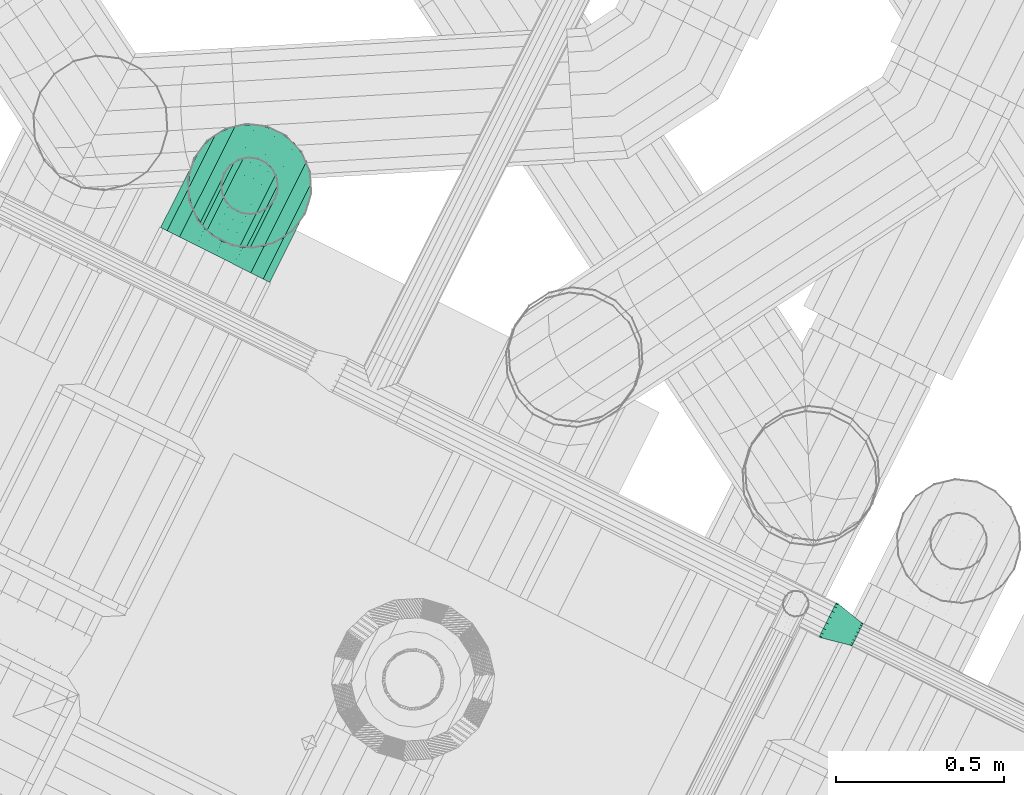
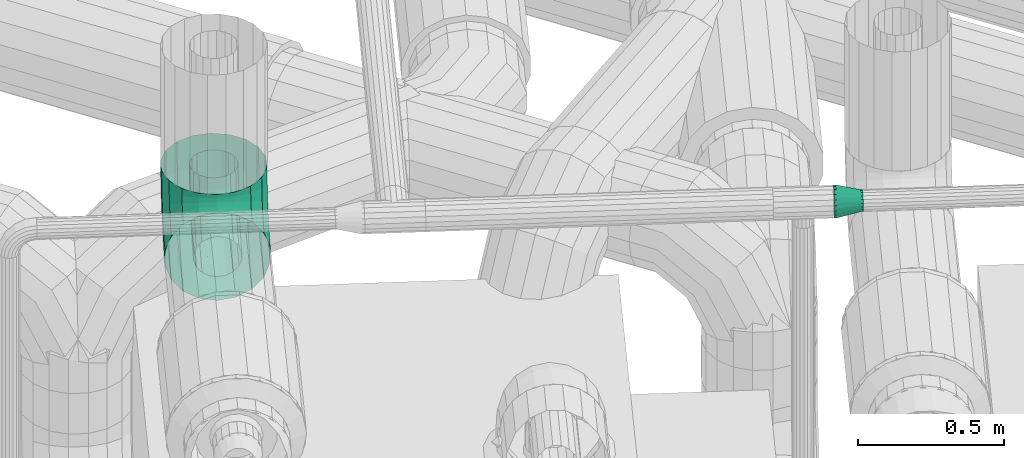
# One storey, part 134 of 206: 1 flow fitting, 1 flow segment.
"""IFC2X3 building model written with IfcOpenShell, lengths in metres."""

from ifc_helpers import new_model, si_unit, derived_unit, direction, frame, origin, place, context, subcontext, project, spatial, face_set, surface_model, source, transform, mapped, material, type_object, type_shapes, element, save


model = new_model("IFC2X3")

# Units and contexts
model_context = context("Model", 3, precision=5.2338327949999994e-05, world=origin(), true_north=direction((0.0, 1.0)))
body_context = subcontext(model_context, "Body", "Model", "MODEL_VIEW")
ifc_project = project(units=[si_unit("LENGTHUNIT", "METRE"), si_unit("AREAUNIT", "SQUARE_METRE"), si_unit("VOLUMEUNIT", "CUBIC_METRE"), si_unit("MASSUNIT", "GRAM", prefix="KILO"), si_unit("PLANEANGLEUNIT", "RADIAN"), derived_unit("THERMALTRANSMITTANCEUNIT", [(si_unit("MASSUNIT", "GRAM", prefix="KILO"), 1), (si_unit("THERMODYNAMICTEMPERATUREUNIT", "KELVIN"), -1), (si_unit("TIMEUNIT", "SECOND"), -3)])], contexts=[model_context])

# Site, building, storey
site_placement = place(None, frame((0.0, 0.0, 0.0), z_axis=(0.0, 0.0, 1.0), x_axis=(0.8939966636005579, -0.4480736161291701, 0.0)))
site = spatial("IfcSite", under=ifc_project, at=site_placement, Name="Default", CompositionType="ELEMENT")
building_placement = place(site_placement, origin())
building = spatial("IfcBuilding", under=site, at=building_placement, CompositionType="ELEMENT")
storey_placement = place(building_placement, origin())
storey = spatial("IfcBuildingStorey", under=building, at=storey_placement, Name="Erdgeschoss", CompositionType="ELEMENT", Elevation=0.0)

# Flow segment
ifc_material_1 = material(Name="IfcSurfaceStyle #1741")
distribution_element_type_1 = type_object("IfcDistributionElementType", Name="Rohrbogen 319046:Rohrbogen 319046", material=ifc_material_1)
shared_shape_1 = source(origin(), body_context, "Body", "SurfaceModel", [
    surface_model("IfcFaceBasedSurfaceModel", [(23.08485389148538, 8.230715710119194, 2.2698499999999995), (23.05607289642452, 8.230715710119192, 2.274924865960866), (23.05607289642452, 8.325916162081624, 2.290003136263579), (23.08485389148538, 8.327484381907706, 2.285176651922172), (23.05607289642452, 8.411797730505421, 2.3337619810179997), (23.08485389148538, 8.41478066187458, 2.3296563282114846), (23.05607289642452, 8.47995372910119, 2.4019179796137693), (23.08485389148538, 8.48405938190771, 2.3989350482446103), (23.056072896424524, 8.523712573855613, 2.4877995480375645), (23.084853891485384, 8.528539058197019, 2.4862313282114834), (23.056072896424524, 8.538790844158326, 2.5829999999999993), (23.084853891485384, 8.543865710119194, 2.5829999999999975), (23.030763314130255, 8.230715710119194, 2.2895373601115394), (23.030763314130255, 8.321400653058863, 2.303900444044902), (23.030763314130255, 8.403208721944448, 2.3455837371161), (23.030763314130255, 8.468131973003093, 2.410506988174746), (23.030763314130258, 8.509815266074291, 2.492315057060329), (23.030763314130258, 8.524178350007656, 2.5829999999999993), (23.011977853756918, 8.230715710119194, 2.3119249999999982), (23.011977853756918, 8.314482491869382, 2.32519235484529), (23.011977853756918, 8.390049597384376, 2.3636957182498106), (23.011977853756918, 8.450019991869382, 2.4236661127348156), (23.011977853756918, 8.488523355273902, 2.499233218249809), (23.011977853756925, 8.501790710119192, 2.583), (23.001982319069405, 8.230715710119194, 2.33938750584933), (23.001982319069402, 8.305996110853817, 2.351310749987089), (23.001982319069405, 8.373907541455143, 2.385913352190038), (23.001982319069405, 8.427802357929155, 2.43980816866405), (23.001982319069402, 8.462404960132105, 2.507719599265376), (23.001982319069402, 8.474328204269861, 2.583000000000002), (23.001982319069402, 8.230715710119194, 2.3686124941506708), (23.001982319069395, 8.296965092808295, 2.3791053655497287), (23.001982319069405, 8.356729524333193, 2.409556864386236), (23.001982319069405, 8.404158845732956, 2.4569861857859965), (23.001982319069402, 8.434610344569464, 2.5167506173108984), (23.00198231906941, 8.445103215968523, 2.5829999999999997), (23.011977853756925, 8.230715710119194, 2.3960749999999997), (23.011977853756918, 8.28847871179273, 2.4052237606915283), (23.011977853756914, 8.340587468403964, 2.43177449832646), (23.011977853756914, 8.38194121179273, 2.473128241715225), (23.011977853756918, 8.408491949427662, 2.525236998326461), (23.011977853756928, 8.417640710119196, 2.5829999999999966), (23.030763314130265, 8.230715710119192, 2.4184626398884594), (23.030763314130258, 8.28156055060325, 2.426515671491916), (23.030763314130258, 8.327428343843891, 2.449886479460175), (23.030763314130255, 8.363829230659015, 2.486287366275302), (23.030763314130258, 8.387200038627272, 2.5321551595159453), (23.030763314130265, 8.395253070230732, 2.5830000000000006), (23.05607289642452, 8.230715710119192, 2.4330751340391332), (23.05607289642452, 8.277045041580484, 2.4404129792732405), (23.05607289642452, 8.318839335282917, 2.461708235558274), (23.056072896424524, 8.352007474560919, 2.4948763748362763), (23.056072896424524, 8.373302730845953, 2.5366706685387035), (23.056072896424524, 8.380640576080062, 2.582999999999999), (23.084853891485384, 8.230715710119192, 2.438149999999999), (23.084853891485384, 8.275476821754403, 2.445239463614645), (23.084853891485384, 8.315856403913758, 2.4658138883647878), (23.084853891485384, 8.347901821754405, 2.497859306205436), (23.084853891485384, 8.368476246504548, 2.5382388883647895), (23.084853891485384, 8.375565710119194, 2.5830000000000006), (23.11363488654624, 8.230715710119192, 2.433075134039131), (23.113634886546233, 8.277045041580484, 2.440412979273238), (23.11363488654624, 8.318839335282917, 2.46170823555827), (23.11363488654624, 8.352007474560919, 2.4948763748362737), (23.11363488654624, 8.373302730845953, 2.5366706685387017), (23.11363488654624, 8.380640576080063, 2.5829999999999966), (23.1389444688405, 8.230715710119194, 2.418462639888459), (23.1389444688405, 8.28156055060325, 2.4265156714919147), (23.138944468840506, 8.327428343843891, 2.4498864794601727), (23.138944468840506, 8.363829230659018, 2.486287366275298), (23.138944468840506, 8.387200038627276, 2.532155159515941), (23.138944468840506, 8.395253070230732, 2.582999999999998), (23.15772992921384, 8.230715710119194, 2.3960749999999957), (23.15772992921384, 8.28847871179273, 2.4052237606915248), (23.15772992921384, 8.340587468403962, 2.431774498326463), (23.15772992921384, 8.38194121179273, 2.473128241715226), (23.15772992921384, 8.408491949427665, 2.525236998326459), (23.15772992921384, 8.417640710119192, 2.5829999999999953), (23.16772546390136, 8.230715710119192, 2.368612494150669), (23.16772546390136, 8.296965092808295, 2.379105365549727), (23.16772546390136, 8.356729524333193, 2.409556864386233), (23.16772546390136, 8.404158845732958, 2.4569861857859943), (23.16772546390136, 8.434610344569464, 2.516750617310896), (23.16772546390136, 8.445103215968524, 2.5829999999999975), (23.16772546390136, 8.230715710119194, 2.3393875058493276), (23.167725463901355, 8.305996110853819, 2.351310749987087), (23.167725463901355, 8.373907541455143, 2.3859133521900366), (23.16772546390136, 8.427802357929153, 2.4398081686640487), (23.16772546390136, 8.462404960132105, 2.5077195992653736), (23.16772546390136, 8.474328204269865, 2.5829999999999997), (23.157729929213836, 8.230715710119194, 2.311924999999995), (23.15772992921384, 8.314482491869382, 2.325192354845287), (23.157729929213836, 8.390049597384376, 2.36369571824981), (23.157729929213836, 8.450019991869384, 2.423666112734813), (23.15772992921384, 8.488523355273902, 2.4992332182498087), (23.15772992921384, 8.501790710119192, 2.5829999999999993), (23.1389444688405, 8.230715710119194, 2.289537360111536), (23.1389444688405, 8.321400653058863, 2.3039004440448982), (23.1389444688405, 8.403208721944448, 2.345583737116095), (23.1389444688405, 8.468131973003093, 2.4105069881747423), (23.1389444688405, 8.509815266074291, 2.492315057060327), (23.138944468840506, 8.524178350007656, 2.5829999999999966), (23.11363488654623, 8.230715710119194, 2.2749248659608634), (23.11363488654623, 8.325916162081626, 2.290003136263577), (23.113634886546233, 8.411797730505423, 2.3337619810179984), (23.113634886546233, 8.479953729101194, 2.4019179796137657), (23.11363488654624, 8.523712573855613, 2.4877995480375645), (23.11363488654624, 8.538790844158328, 2.5829999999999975), (23.084853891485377, 8.230715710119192, 2.16985), (23.021870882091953, 8.230715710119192, 2.1809556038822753), (23.021870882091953, 8.35495426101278, 2.200633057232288), (23.084853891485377, 8.358386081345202, 2.190071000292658), (23.021870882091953, 8.467031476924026, 2.2577392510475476), (23.084853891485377, 8.47355918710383, 2.248754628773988), (23.021870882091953, 8.555976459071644, 2.346684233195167), (23.08485389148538, 8.564961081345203, 2.340156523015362), (23.021870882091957, 8.613082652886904, 2.4587614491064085), (23.08485389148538, 8.623644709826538, 2.4553296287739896), (23.021870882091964, 8.632760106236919, 2.5829999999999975), (23.084853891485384, 8.643865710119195, 2.5830000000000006), (22.9664845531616, 8.230715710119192, 2.2129329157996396), (22.9664845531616, 8.345072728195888, 2.2310452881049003), (22.9664845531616, 8.448235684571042, 2.283609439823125), (22.9664845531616, 8.530106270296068, 2.3654800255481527), (22.966484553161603, 8.582670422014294, 2.468642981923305), (22.9664845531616, 8.600782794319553, 2.5830000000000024), (22.925375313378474, 8.230715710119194, 2.261925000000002), (22.925375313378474, 8.329933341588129, 2.277639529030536), (22.925375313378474, 8.419438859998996, 2.3232448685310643), (22.925375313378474, 8.49047084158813, 2.394276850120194), (22.925375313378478, 8.536076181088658, 2.4837823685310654), (22.925375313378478, 8.551790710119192, 2.583), (22.903501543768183, 8.230715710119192, 2.322022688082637), (22.903501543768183, 8.311362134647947, 2.3347958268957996), (22.903501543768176, 8.384114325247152, 2.3718649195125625), (22.903501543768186, 8.441850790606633, 2.429601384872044), (22.903501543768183, 8.478919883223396, 2.502353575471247), (22.903501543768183, 8.491693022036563, 2.5830000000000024), (22.903501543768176, 8.230715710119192, 2.3859773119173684), (22.903501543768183, 8.29159906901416, 2.3956202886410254), (22.903501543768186, 8.346522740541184, 2.4236052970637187), (22.903501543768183, 8.390110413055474, 2.4671929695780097), (22.903501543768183, 8.41809542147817, 2.5221166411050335), (22.903501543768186, 8.427738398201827, 2.5830000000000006), (22.92537531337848, 8.230715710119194, 2.4460749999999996), (22.925375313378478, 8.273027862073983, 2.4527765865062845), (22.925375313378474, 8.311198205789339, 2.4722253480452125), (22.925375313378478, 8.341490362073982, 2.502517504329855), (22.925375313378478, 8.360939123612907, 2.5406878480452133), (22.925375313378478, 8.367640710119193, 2.5830000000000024), (22.966484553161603, 8.230715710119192, 2.495067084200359), (22.966484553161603, 8.25788847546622, 2.499370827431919), (22.966484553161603, 8.282401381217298, 2.511860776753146), (22.966484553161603, 8.301854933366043, 2.531314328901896), (22.966484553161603, 8.314344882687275, 2.55582723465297), (22.966484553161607, 8.318648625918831, 2.582999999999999), (23.021870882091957, 8.230715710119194, 2.527044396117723), (23.021870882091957, 8.24800694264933, 2.5297830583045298), (23.021870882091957, 8.263605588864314, 2.537730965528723), (23.021870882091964, 8.275984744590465, 2.550110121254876), (23.021870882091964, 8.283932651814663, 2.565708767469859), (23.021870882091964, 8.28667131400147, 2.582999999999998), (23.084853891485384, 8.230715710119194, 2.5381499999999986), (23.084853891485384, 8.244575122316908, 2.540345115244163), (23.08485389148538, 8.25707787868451, 2.5467155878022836), (23.084853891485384, 8.267000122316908, 2.556637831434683), (23.084853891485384, 8.273370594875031, 2.5691405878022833), (23.084853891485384, 8.275565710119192, 2.583000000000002), (23.1478369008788, 8.230715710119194, 2.527044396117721), (23.1478369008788, 8.24800694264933, 2.5297830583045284), (23.1478369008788, 8.263605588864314, 2.5377309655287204), (23.1478369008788, 8.275984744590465, 2.5501101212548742), (23.1478369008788, 8.283932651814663, 2.565708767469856), (23.147836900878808, 8.286671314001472, 2.5829999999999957), (23.203223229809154, 8.230715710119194, 2.495067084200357), (23.203223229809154, 8.257888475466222, 2.4993708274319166), (23.203223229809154, 8.282401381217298, 2.511860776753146), (23.20322322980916, 8.301854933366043, 2.531314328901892), (23.20322322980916, 8.314344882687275, 2.555827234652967), (23.20322322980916, 8.318648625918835, 2.5829999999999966), (23.244332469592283, 8.230715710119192, 2.446074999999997), (23.244332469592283, 8.273027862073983, 2.4527765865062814), (23.244332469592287, 8.31119820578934, 2.4722253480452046), (23.244332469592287, 8.341490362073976, 2.502517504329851), (23.24433246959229, 8.360939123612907, 2.540687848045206), (23.24433246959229, 8.367640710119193, 2.582999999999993), (23.266206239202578, 8.230715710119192, 2.3859773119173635), (23.266206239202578, 8.29159906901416, 2.395620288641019), (23.266206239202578, 8.346522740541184, 2.423605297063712), (23.266206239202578, 8.390110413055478, 2.4671929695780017), (23.266206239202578, 8.418095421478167, 2.5221166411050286), (23.26620623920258, 8.427738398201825, 2.582999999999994), (23.266206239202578, 8.230715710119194, 2.3220226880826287), (23.266206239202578, 8.31136213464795, 2.334795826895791), (23.266206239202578, 8.384114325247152, 2.371864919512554), (23.266206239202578, 8.441850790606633, 2.429601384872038), (23.26620623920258, 8.478919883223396, 2.502353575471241), (23.26620623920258, 8.491693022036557, 2.5829999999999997), (23.244332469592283, 8.230715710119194, 2.261924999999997), (23.244332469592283, 8.329933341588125, 2.2776395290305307), (23.244332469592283, 8.419438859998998, 2.32324486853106), (23.244332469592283, 8.49047084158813, 2.3942768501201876), (23.244332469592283, 8.536076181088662, 2.4837823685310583), (23.244332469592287, 8.551790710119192, 2.582999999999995), (23.20322322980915, 8.230715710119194, 2.2129329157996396), (23.20322322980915, 8.34507272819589, 2.2310452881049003), (23.20322322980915, 8.448235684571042, 2.283609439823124), (23.20322322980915, 8.530106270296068, 2.3654800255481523), (23.203223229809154, 8.582670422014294, 2.468642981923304), (23.20322322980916, 8.600782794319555, 2.582999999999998), (23.147836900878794, 8.230715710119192, 2.180955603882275), (23.147836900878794, 8.35495426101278, 2.200633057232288), (23.147836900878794, 8.467031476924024, 2.2577392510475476), (23.147836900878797, 8.555976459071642, 2.346684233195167), (23.1478369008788, 8.613082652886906, 2.4587614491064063), (23.1478369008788, 8.632760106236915, 2.5829999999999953)], [face_set([[[0, 1, 2, 3]], [[3, 2, 4, 5]], [[5, 4, 6, 7]], [[7, 6, 8, 9]], [[9, 8, 10, 11]], [[1, 12, 13, 2]], [[2, 13, 14, 4]], [[4, 14, 15, 6]], [[6, 15, 16, 8]], [[8, 16, 17, 10]], [[12, 18, 19, 13]], [[13, 19, 20, 14]], [[14, 20, 21, 15]], [[15, 21, 22, 16]], [[16, 22, 23, 17]], [[18, 24, 25, 19]], [[19, 25, 26, 20]], [[20, 26, 27, 21]], [[21, 27, 28, 22]], [[22, 28, 29, 23]], [[24, 30, 31, 25]], [[25, 31, 32, 26]], [[26, 32, 33, 27]], [[27, 33, 34, 28]], [[28, 34, 35, 29]], [[30, 36, 37, 31]], [[31, 37, 38, 32]], [[32, 38, 39, 33]], [[33, 39, 40, 34]], [[34, 40, 41, 35]], [[36, 42, 43, 37]], [[37, 43, 44, 38]], [[38, 44, 45, 39]], [[39, 45, 46, 40]], [[40, 46, 47, 41]], [[42, 48, 49, 43]], [[43, 49, 50, 44]], [[44, 50, 51, 45]], [[45, 51, 52, 46]], [[46, 52, 53, 47]], [[48, 54, 55, 49]], [[49, 55, 56, 50]], [[50, 56, 57, 51]], [[51, 57, 58, 52]], [[52, 58, 59, 53]], [[54, 60, 61, 55]], [[55, 61, 62, 56]], [[56, 62, 63, 57]], [[57, 63, 64, 58]], [[58, 64, 65, 59]], [[60, 66, 67, 61]], [[61, 67, 68, 62]], [[62, 68, 69, 63]], [[63, 69, 70, 64]], [[64, 70, 71, 65]], [[66, 72, 73, 67]], [[67, 73, 74, 68]], [[68, 74, 75, 69]], [[69, 75, 76, 70]], [[70, 76, 77, 71]], [[72, 78, 79, 73]], [[73, 79, 80, 74]], [[74, 80, 81, 75]], [[75, 81, 82, 76]], [[76, 82, 83, 77]], [[78, 84, 85, 79]], [[79, 85, 86, 80]], [[80, 86, 87, 81]], [[81, 87, 88, 82]], [[82, 88, 89, 83]], [[84, 90, 91, 85]], [[85, 91, 92, 86]], [[86, 92, 93, 87]], [[87, 93, 94, 88]], [[88, 94, 95, 89]], [[90, 96, 97, 91]], [[91, 97, 98, 92]], [[92, 98, 99, 93]], [[93, 99, 100, 94]], [[94, 100, 101, 95]], [[96, 102, 103, 97]], [[97, 103, 104, 98]], [[98, 104, 105, 99]], [[99, 105, 106, 100]], [[100, 106, 107, 101]], [[102, 0, 3, 103]], [[103, 3, 5, 104]], [[104, 5, 7, 105]], [[105, 7, 9, 106]], [[106, 9, 11, 107]], [[108, 109, 110, 111]], [[111, 110, 112, 113]], [[113, 112, 114, 115]], [[115, 114, 116, 117]], [[117, 116, 118, 119]], [[109, 120, 121, 110]], [[110, 121, 122, 112]], [[112, 122, 123, 114]], [[114, 123, 124, 116]], [[116, 124, 125, 118]], [[120, 126, 127, 121]], [[121, 127, 128, 122]], [[122, 128, 129, 123]], [[123, 129, 130, 124]], [[124, 130, 131, 125]], [[126, 132, 133, 127]], [[127, 133, 134, 128]], [[128, 134, 135, 129]], [[129, 135, 136, 130]], [[130, 136, 137, 131]], [[132, 138, 139, 133]], [[133, 139, 140, 134]], [[134, 140, 141, 135]], [[135, 141, 142, 136]], [[136, 142, 143, 137]], [[138, 144, 145, 139]], [[139, 145, 146, 140]], [[140, 146, 147, 141]], [[141, 147, 148, 142]], [[142, 148, 149, 143]], [[144, 150, 151, 145]], [[145, 151, 152, 146]], [[146, 152, 153, 147]], [[147, 153, 154, 148]], [[148, 154, 155, 149]], [[150, 156, 157, 151]], [[151, 157, 158, 152]], [[152, 158, 159, 153]], [[153, 159, 160, 154]], [[154, 160, 161, 155]], [[156, 162, 163, 157]], [[157, 163, 164, 158]], [[158, 164, 165, 159]], [[159, 165, 166, 160]], [[160, 166, 167, 161]], [[162, 168, 169, 163]], [[163, 169, 170, 164]], [[164, 170, 171, 165]], [[165, 171, 172, 166]], [[166, 172, 173, 167]], [[168, 174, 175, 169]], [[169, 175, 176, 170]], [[170, 176, 177, 171]], [[171, 177, 178, 172]], [[172, 178, 179, 173]], [[174, 180, 181, 175]], [[175, 181, 182, 176]], [[176, 182, 183, 177]], [[177, 183, 184, 178]], [[178, 184, 185, 179]], [[180, 186, 187, 181]], [[181, 187, 188, 182]], [[182, 188, 189, 183]], [[183, 189, 190, 184]], [[184, 190, 191, 185]], [[186, 192, 193, 187]], [[187, 193, 194, 188]], [[188, 194, 195, 189]], [[189, 195, 196, 190]], [[190, 196, 197, 191]], [[192, 198, 199, 193]], [[193, 199, 200, 194]], [[194, 200, 201, 195]], [[195, 201, 202, 196]], [[196, 202, 203, 197]], [[198, 204, 205, 199]], [[199, 205, 206, 200]], [[200, 206, 207, 201]], [[201, 207, 208, 202]], [[202, 208, 209, 203]], [[204, 210, 211, 205]], [[205, 211, 212, 206]], [[206, 212, 213, 207]], [[207, 213, 214, 208]], [[208, 214, 215, 209]], [[210, 108, 111, 211]], [[211, 111, 113, 212]], [[212, 113, 115, 213]], [[213, 115, 117, 214]], [[214, 117, 119, 215]]])]),
])
type_shapes(distribution_element_type_1, [shared_shape_1])
flow_segment_placement = place(storey_placement, origin())
element("IfcFlowSegment", 1, at=flow_segment_placement, inside=storey, type_object=distribution_element_type_1, material=ifc_material_1, Name="Rohrbogen", ObjectType="Rohrbogen", context=body_context, shape_type="MappedRepresentation", body=[
    mapped(shared_shape_1, transform((0.0, 0.0, 0.0), scale=1.0)),
])

# Flow fitting
ifc_material_2 = material(Name="IfcSurfaceStyle #352577")
distribution_element_type_2 = type_object("IfcDistributionElementType", Name="Übergangsstück 849300:Übergangsstück 849300", material=ifc_material_2)
shared_shape_2 = source(origin(), body_context, "Body", "SurfaceModel", [
    surface_model("IfcFaceBasedSurfaceModel", [(25.19564054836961, 8.134312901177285, 2.6051641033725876), (25.19564054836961, 8.1308663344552, 2.6247105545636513), (25.20426000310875, 8.1308663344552, 2.6247105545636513), (25.20426000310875, 8.134312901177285, 2.605164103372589), (25.19564054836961, 8.120942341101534, 2.6418994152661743), (25.20426000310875, 8.120942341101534, 2.6418994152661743), (25.19564054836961, 8.105737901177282, 2.65465745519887), (25.20426000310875, 8.105737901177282, 2.65465745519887), (25.19564054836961, 8.087086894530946, 2.661445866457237), (25.20426000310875, 8.087086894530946, 2.661445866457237), (25.19564054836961, 8.067238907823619, 2.661445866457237), (25.20426000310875, 8.067238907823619, 2.661445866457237), (25.19564054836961, 8.048587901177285, 2.6546574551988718), (25.20426000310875, 8.048587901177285, 2.6546574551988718), (25.19564054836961, 8.033383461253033, 2.641899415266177), (25.20426000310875, 8.033383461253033, 2.641899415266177), (25.19564054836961, 8.02345946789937, 2.624710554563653), (25.20426000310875, 8.02345946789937, 2.624710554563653), (25.19564054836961, 8.020012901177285, 2.60516410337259), (25.20426000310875, 8.020012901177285, 2.60516410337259), (25.195640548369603, 8.023459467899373, 2.58561765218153), (25.204260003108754, 8.023459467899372, 2.5856176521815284), (25.19564054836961, 8.033383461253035, 2.568428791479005), (25.204260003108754, 8.033383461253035, 2.5684287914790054), (25.19564054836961, 8.048587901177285, 2.555670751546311), (25.20426000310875, 8.048587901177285, 2.555670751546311), (25.19564054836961, 8.06723890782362, 2.5488823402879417), (25.20426000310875, 8.06723890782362, 2.5488823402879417), (25.19564054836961, 8.08708689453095, 2.5488823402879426), (25.20426000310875, 8.08708689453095, 2.5488823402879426), (25.19564054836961, 8.105737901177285, 2.5556707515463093), (25.20426000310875, 8.105737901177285, 2.5556707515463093), (25.19564054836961, 8.120942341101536, 2.568428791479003), (25.20426000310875, 8.120942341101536, 2.568428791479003), (25.19564054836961, 8.1308663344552, 2.585617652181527), (25.20426000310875, 8.1308663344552, 2.585617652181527), (25.20426000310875, 8.077162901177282, 2.662314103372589), (25.20426000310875, 8.05761644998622, 2.658867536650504), (25.289025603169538, 8.064149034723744, 2.6409194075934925), (25.289025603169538, 8.077162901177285, 2.6432141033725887), (25.20426000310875, 8.040427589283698, 2.6489435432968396), (25.289025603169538, 8.052704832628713, 2.6343120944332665), (25.20426000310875, 8.027669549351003, 2.63373910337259), (25.289025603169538, 8.044210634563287, 2.624189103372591), (25.20426000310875, 8.020881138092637, 2.6150880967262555), (25.289025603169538, 8.03969096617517, 2.6117714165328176), (25.20426000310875, 8.020881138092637, 2.5952401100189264), (25.289025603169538, 8.03969096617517, 2.598556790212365), (25.20426000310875, 8.027669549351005, 2.576589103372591), (25.289025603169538, 8.044210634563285, 2.5861391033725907), (25.20426000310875, 8.040427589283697, 2.5613846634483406), (25.289025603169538, 8.052704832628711, 2.576016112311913), (25.20426000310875, 8.057616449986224, 2.551460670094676), (25.289025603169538, 8.06414903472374, 2.5694087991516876), (25.20426000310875, 8.077162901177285, 2.5480141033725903), (25.289025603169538, 8.077162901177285, 2.5671141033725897), (25.20426000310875, 8.096709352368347, 2.551460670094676), (25.289025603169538, 8.090176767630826, 2.569408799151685), (25.20426000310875, 8.113898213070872, 2.56138466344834), (25.289025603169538, 8.101620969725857, 2.5760161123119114), (25.20426000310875, 8.126656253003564, 2.5765891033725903), (25.289025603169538, 8.110115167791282, 2.586139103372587), (25.20426000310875, 8.133444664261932, 2.5952401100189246), (25.289025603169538, 8.114634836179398, 2.5985567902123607), (25.20426000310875, 8.133444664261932, 2.6150880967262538), (25.289025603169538, 8.114634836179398, 2.6117714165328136), (25.20426000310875, 8.126656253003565, 2.633739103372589), (25.289025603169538, 8.110115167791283, 2.6241891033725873), (25.20426000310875, 8.113898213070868, 2.6489435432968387), (25.289025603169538, 8.101620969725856, 2.6343120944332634), (25.20426000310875, 8.096709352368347, 2.658867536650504), (25.289025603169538, 8.090176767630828, 2.640919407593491), (25.289025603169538, 8.115212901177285, 2.605164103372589), (25.289025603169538, 8.112918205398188, 2.6181779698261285), (25.29564054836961, 8.112918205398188, 2.6181779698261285), (25.29564054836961, 8.115212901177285, 2.605164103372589), (25.289025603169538, 8.10631089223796, 2.6296221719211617), (25.29564054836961, 8.10631089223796, 2.6296221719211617), (25.289025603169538, 8.096187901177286, 2.6381163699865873), (25.29564054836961, 8.096187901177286, 2.6381163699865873), (25.289025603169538, 8.083770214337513, 2.642636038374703), (25.29564054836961, 8.083770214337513, 2.642636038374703), (25.289025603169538, 8.07055558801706, 2.642636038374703), (25.29564054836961, 8.07055558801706, 2.642636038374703), (25.289025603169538, 8.058137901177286, 2.6381163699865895), (25.29564054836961, 8.058137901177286, 2.6381163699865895), (25.289025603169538, 8.048014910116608, 2.6296221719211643), (25.29564054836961, 8.048014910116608, 2.6296221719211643), (25.289025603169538, 8.04140759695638, 2.6181779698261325), (25.29564054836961, 8.04140759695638, 2.6181779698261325), (25.289025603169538, 8.039112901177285, 2.605164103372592), (25.29564054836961, 8.039112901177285, 2.605164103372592), (25.289025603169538, 8.04140759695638, 2.592150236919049), (25.29564054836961, 8.04140759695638, 2.592150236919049), (25.289025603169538, 8.048014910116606, 2.5807060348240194), (25.29564054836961, 8.048014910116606, 2.5807060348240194), (25.289025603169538, 8.058137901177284, 2.572211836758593), (25.29564054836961, 8.058137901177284, 2.572211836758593), (25.289025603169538, 8.070555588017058, 2.567692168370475), (25.29564054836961, 8.070555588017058, 2.567692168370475), (25.289025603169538, 8.08377021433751, 2.567692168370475), (25.29564054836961, 8.08377021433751, 2.567692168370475), (25.289025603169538, 8.096187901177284, 2.5722118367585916), (25.29564054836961, 8.096187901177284, 2.5722118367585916), (25.289025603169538, 8.106310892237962, 2.580706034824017), (25.29564054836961, 8.106310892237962, 2.580706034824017), (25.289025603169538, 8.112918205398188, 2.592150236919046), (25.29564054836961, 8.112918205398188, 2.592150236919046)], [face_set([[[0, 1, 2, 3]], [[1, 4, 5, 2]], [[4, 6, 7, 5]], [[6, 8, 9, 7]], [[8, 10, 11, 9]], [[10, 12, 13, 11]], [[12, 14, 15, 13]], [[14, 16, 17, 15]], [[16, 18, 19, 17]], [[18, 20, 21, 19]], [[20, 22, 23, 21]], [[22, 24, 25, 23]], [[24, 26, 27, 25]], [[26, 28, 29, 27]], [[28, 30, 31, 29]], [[30, 32, 33, 31]], [[32, 34, 35, 33]], [[34, 0, 3, 35]], [[36, 37, 38, 39]], [[37, 40, 41, 38]], [[40, 42, 43, 41]], [[42, 44, 45, 43]], [[44, 46, 47, 45]], [[46, 48, 49, 47]], [[48, 50, 51, 49]], [[50, 52, 53, 51]], [[52, 54, 55, 53]], [[54, 56, 57, 55]], [[56, 58, 59, 57]], [[58, 60, 61, 59]], [[60, 62, 63, 61]], [[62, 64, 65, 63]], [[64, 66, 67, 65]], [[66, 68, 69, 67]], [[68, 70, 71, 69]], [[70, 36, 39, 71]], [[72, 73, 74, 75]], [[73, 76, 77, 74]], [[76, 78, 79, 77]], [[78, 80, 81, 79]], [[80, 82, 83, 81]], [[82, 84, 85, 83]], [[84, 86, 87, 85]], [[86, 88, 89, 87]], [[88, 90, 91, 89]], [[90, 92, 93, 91]], [[92, 94, 95, 93]], [[94, 96, 97, 95]], [[96, 98, 99, 97]], [[98, 100, 101, 99]], [[100, 102, 103, 101]], [[102, 104, 105, 103]], [[104, 106, 107, 105]], [[106, 72, 75, 107]]])]),
])
type_shapes(distribution_element_type_2, [shared_shape_2])
flow_fitting_placement = place(storey_placement, origin())
element("IfcFlowFitting", 2, at=flow_fitting_placement, inside=storey, type_object=distribution_element_type_2, material=ifc_material_2, Name="Übergangsstück", ObjectType="Übergangsstück", context=body_context, shape_type="MappedRepresentation", body=[
    mapped(shared_shape_2, transform((0.0, 0.0, 0.0), scale=1.0)),
])

save(model, "model.ifc")
